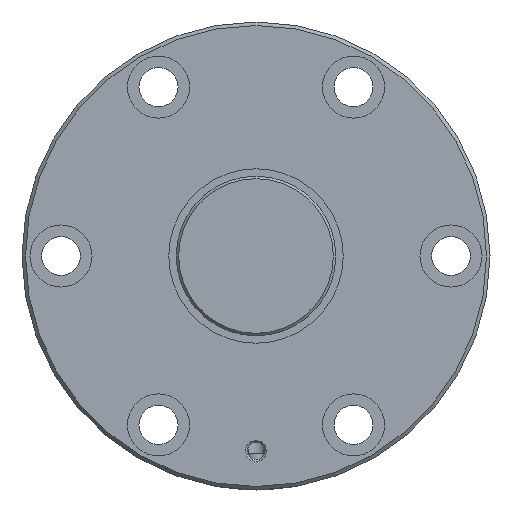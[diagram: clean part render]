
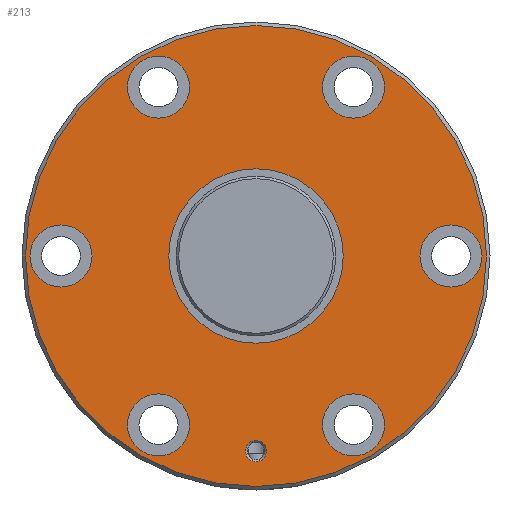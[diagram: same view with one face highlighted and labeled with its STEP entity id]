
A CAD part, left-side view. The second image highlights one B-rep face of the part: STEP entity #213.
In plain terms, the highlighted planar face has unit normal (-1, 0, 0).
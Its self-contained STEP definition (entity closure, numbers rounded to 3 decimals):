
#213 = ADVANCED_FACE( '', ( #359, #360, #361, #362, #363, #364, #365, #366, #367 ), #368, .T. );
#359 = FACE_BOUND( '', #570, .T. );
#360 = FACE_BOUND( '', #571, .T. );
#361 = FACE_BOUND( '', #572, .T. );
#362 = FACE_BOUND( '', #573, .T. );
#363 = FACE_BOUND( '', #574, .T. );
#364 = FACE_BOUND( '', #575, .T. );
#365 = FACE_BOUND( '', #576, .T. );
#366 = FACE_BOUND( '', #577, .T. );
#367 = FACE_OUTER_BOUND( '', #578, .T. );
#368 = PLANE( '', #579 );
#570 = EDGE_LOOP( '', ( #939 ) );
#571 = EDGE_LOOP( '', ( #940 ) );
#572 = EDGE_LOOP( '', ( #941 ) );
#573 = EDGE_LOOP( '', ( #942 ) );
#574 = EDGE_LOOP( '', ( #943 ) );
#575 = EDGE_LOOP( '', ( #944 ) );
#576 = EDGE_LOOP( '', ( #945 ) );
#577 = EDGE_LOOP( '', ( #946 ) );
#578 = EDGE_LOOP( '', ( #947 ) );
#579 = AXIS2_PLACEMENT_3D( '', #948, #949, #950 );
#939 = ORIENTED_EDGE( '', *, *, #1224, .T. );
#940 = ORIENTED_EDGE( '', *, *, #1225, .T. );
#941 = ORIENTED_EDGE( '', *, *, #1161, .T. );
#942 = ORIENTED_EDGE( '', *, *, #1223, .T. );
#943 = ORIENTED_EDGE( '', *, *, #1226, .T. );
#944 = ORIENTED_EDGE( '', *, *, #1227, .T. );
#945 = ORIENTED_EDGE( '', *, *, #1228, .T. );
#946 = ORIENTED_EDGE( '', *, *, #1229, .T. );
#947 = ORIENTED_EDGE( '', *, *, #1230, .F. );
#948 = CARTESIAN_POINT( '', ( 0., 65., 0. ) );
#949 = DIRECTION( '', ( -1., 0., 0. ) );
#950 = DIRECTION( '', ( 0., 0., 1. ) );
#1161 = EDGE_CURVE( '', #1307, #1307, #1308, .T. );
#1223 = EDGE_CURVE( '', #1415, #1415, #1416, .T. );
#1224 = EDGE_CURVE( '', #1417, #1417, #1418, .T. );
#1225 = EDGE_CURVE( '', #1419, #1419, #1420, .F. );
#1226 = EDGE_CURVE( '', #1421, #1421, #1422, .T. );
#1227 = EDGE_CURVE( '', #1423, #1423, #1424, .T. );
#1228 = EDGE_CURVE( '', #1425, #1425, #1426, .T. );
#1229 = EDGE_CURVE( '', #1427, #1427, #1428, .T. );
#1230 = EDGE_CURVE( '', #1429, #1429, #1430, .T. );
#1307 = VERTEX_POINT( '', #1654 );
#1308 = CIRCLE( '', #1655, 3. );
#1415 = VERTEX_POINT( '', #2036 );
#1416 = CIRCLE( '', #2037, 8.75 );
#1417 = VERTEX_POINT( '', #2038 );
#1418 = CIRCLE( '', #2039, 24.6 );
#1419 = VERTEX_POINT( '', #2040 );
#1420 = CIRCLE( '', #2041, 8.75 );
#1421 = VERTEX_POINT( '', #2042 );
#1422 = CIRCLE( '', #2043, 8.75 );
#1423 = VERTEX_POINT( '', #2044 );
#1424 = CIRCLE( '', #2045, 8.75 );
#1425 = VERTEX_POINT( '', #2046 );
#1426 = CIRCLE( '', #2047, 8.75 );
#1427 = VERTEX_POINT( '', #2048 );
#1428 = CIRCLE( '', #2049, 8.75 );
#1429 = VERTEX_POINT( '', #2050 );
#1430 = CIRCLE( '', #2051, 65. );
#1654 = CARTESIAN_POINT( '', ( 0., 0., -58. ) );
#1655 = AXIS2_PLACEMENT_3D( '', #2229, #2230, #2231 );
#2036 = CARTESIAN_POINT( '', ( 0., 27.5, 38.881 ) );
#2037 = AXIS2_PLACEMENT_3D( '', #2343, #2344, #2345 );
#2038 = CARTESIAN_POINT( '', ( 0., 0., -24.6 ) );
#2039 = AXIS2_PLACEMENT_3D( '', #2346, #2347, #2348 );
#2040 = CARTESIAN_POINT( '', ( 0., 55., 8.75 ) );
#2041 = AXIS2_PLACEMENT_3D( '', #2349, #2350, #2351 );
#2042 = CARTESIAN_POINT( '', ( 0., -27.5, -56.381 ) );
#2043 = AXIS2_PLACEMENT_3D( '', #2352, #2353, #2354 );
#2044 = CARTESIAN_POINT( '', ( 0., -27.5, 38.881 ) );
#2045 = AXIS2_PLACEMENT_3D( '', #2355, #2356, #2357 );
#2046 = CARTESIAN_POINT( '', ( 0., 27.5, -56.381 ) );
#2047 = AXIS2_PLACEMENT_3D( '', #2358, #2359, #2360 );
#2048 = CARTESIAN_POINT( '', ( 0., -55., -8.75 ) );
#2049 = AXIS2_PLACEMENT_3D( '', #2361, #2362, #2363 );
#2050 = CARTESIAN_POINT( '', ( 0., 0., -65. ) );
#2051 = AXIS2_PLACEMENT_3D( '', #2364, #2365, #2366 );
#2229 = CARTESIAN_POINT( '', ( 0., 0., -55. ) );
#2230 = DIRECTION( '', ( 1., 0., 0. ) );
#2231 = DIRECTION( '', ( 0., 0., -1. ) );
#2343 = CARTESIAN_POINT( '', ( 0., 27.5, 47.631 ) );
#2344 = DIRECTION( '', ( 1., 0., 0. ) );
#2345 = DIRECTION( '', ( 0., 0., -1. ) );
#2346 = CARTESIAN_POINT( '', ( 0., 0., 0. ) );
#2347 = DIRECTION( '', ( 1., 0., 0. ) );
#2348 = DIRECTION( '', ( 0., 0., -1. ) );
#2349 = CARTESIAN_POINT( '', ( 0., 55., 0. ) );
#2350 = DIRECTION( '', ( -1., 0., 0. ) );
#2351 = DIRECTION( '', ( 0., 0., 1. ) );
#2352 = CARTESIAN_POINT( '', ( 0., -27.5, -47.631 ) );
#2353 = DIRECTION( '', ( 1., 0., 0. ) );
#2354 = DIRECTION( '', ( 0., 0., -1. ) );
#2355 = CARTESIAN_POINT( '', ( 0., -27.5, 47.631 ) );
#2356 = DIRECTION( '', ( 1., 0., 0. ) );
#2357 = DIRECTION( '', ( 0., 0., -1. ) );
#2358 = CARTESIAN_POINT( '', ( 0., 27.5, -47.631 ) );
#2359 = DIRECTION( '', ( 1., 0., 0. ) );
#2360 = DIRECTION( '', ( 0., 0., -1. ) );
#2361 = CARTESIAN_POINT( '', ( 0., -55., 0. ) );
#2362 = DIRECTION( '', ( 1., 0., 0. ) );
#2363 = DIRECTION( '', ( 0., 0., -1. ) );
#2364 = CARTESIAN_POINT( '', ( 0., 0., 0. ) );
#2365 = DIRECTION( '', ( 1., 0., 0. ) );
#2366 = DIRECTION( '', ( 0., 0., -1. ) );
